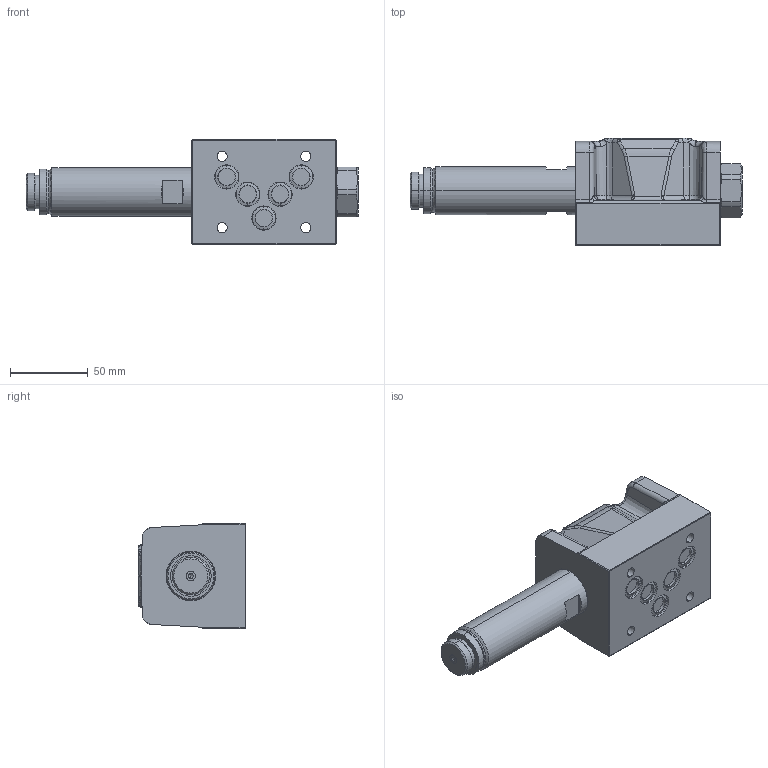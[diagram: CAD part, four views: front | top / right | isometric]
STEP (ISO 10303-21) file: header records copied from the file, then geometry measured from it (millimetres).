
FILE_DESCRIPTION (( 'STEP AP214' ), '1' );
FILE_NAME ('WDMFA10-4_2-Aside.STEP', '2015-10-22T06:53:50', ( '' ), ( '' ), 'SwSTEP 2.0', 'SolidWorks 2014', '' );
FILE_SCHEMA (( 'AUTOMOTIVE_DESIGN' ));
Length unit declared in the file: millimetre
Products named in the file (2): WDMFA10-4_2-Aside
Bounding box: 214.2 x 69.5 x 68 mm (x, y, z)
Volume: 442979.1 mm3; surface area: 50297.2 mm2
Topology: 1 solids, 1 shells, 461 faces, 1083 edges, 646 vertices
Faces by surface type: cylinder 157, plane 132, bspline 110, cone 39, torus 23
Entity records: 21978 total; most frequent: CARTESIAN_POINT 7349, ORIENTED_EDGE 2146, DIRECTION 1774, EDGE_CURVE 1073, AXIS2_PLACEMENT_3D 662, VERTEX_POINT 646, EDGE_LOOP 501, UNCERTAINTY_MEASURE_WITH_UNIT 462
